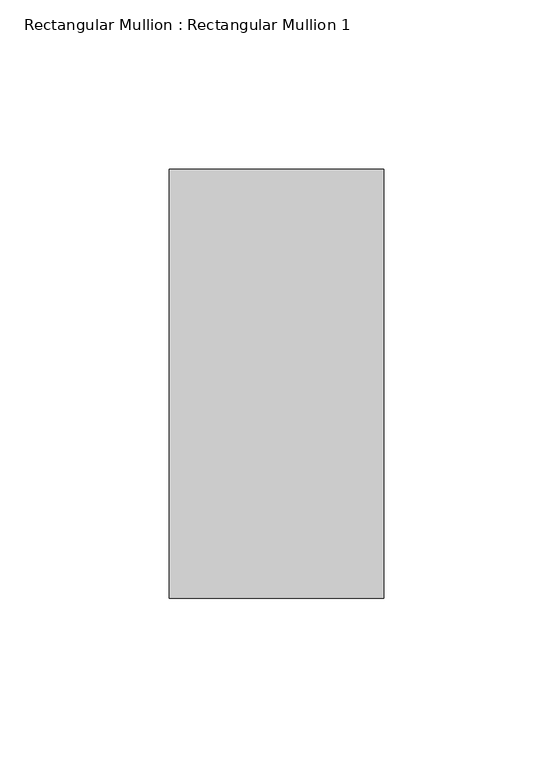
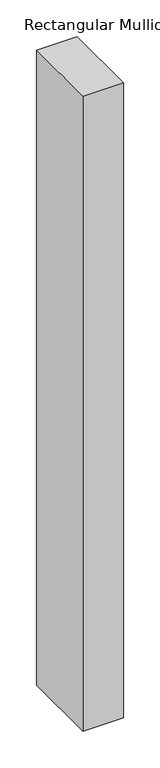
"""IFC4 building model written with IfcOpenShell, lengths in millimetres: member geometry, Rectangular Mullion : Rectangular Mullion 1."""

from ifc_helpers import new_model, si_unit, frame, origin, place, context, project, spatial, polyline, outline, extrude, source, transform, mapped, element, save


def rectangular_mullion_rectangular_mullion_1_bb6e01eb(model_context):
    return source(origin(), model_context, "Body", "SweptSolid", [
        extrude(outline(polyline([(31.75, 63.5), (31.75, -63.5), (-31.75, -63.5), (-31.75, 63.5), (31.75, 63.5)])), frame((0.0, 0.0, -1056.8214287), z_axis=(0.0, 0.0, 1.0), x_axis=(1.0, 0.0, 0.0)), (0.0, 0.0, 1.0), 1056.8214287),
    ])


if __name__ == "__main__":
    model = new_model("IFC4")
    model_context = context("Model", 3, world=origin())
    ifc_project = project(units=[si_unit("LENGTHUNIT", "METRE", prefix="MILLI")], contexts=[model_context])
    site = spatial("IfcSite", under=ifc_project)
    building = spatial("IfcBuilding", under=site)
    placement = place(None, origin())
    rectangular_mullion_rectangular_mullion_1_shape = rectangular_mullion_rectangular_mullion_1_bb6e01eb(model_context)
    element("IfcMember", 1, ObjectType="Rectangular Mullion : Rectangular Mullion 1", at=placement, inside=building, context=model_context, shape_type="MappedRepresentation", body=[
        mapped(rectangular_mullion_rectangular_mullion_1_shape, transform((0.0, 0.0, 0.0), x_axis=(1.0, 0.0, 0.0), y_axis=(0.0, 1.0, 0.0), z_axis=(0.0, 0.0, 1.0))),
    ])
    save(model, "model.ifc")
